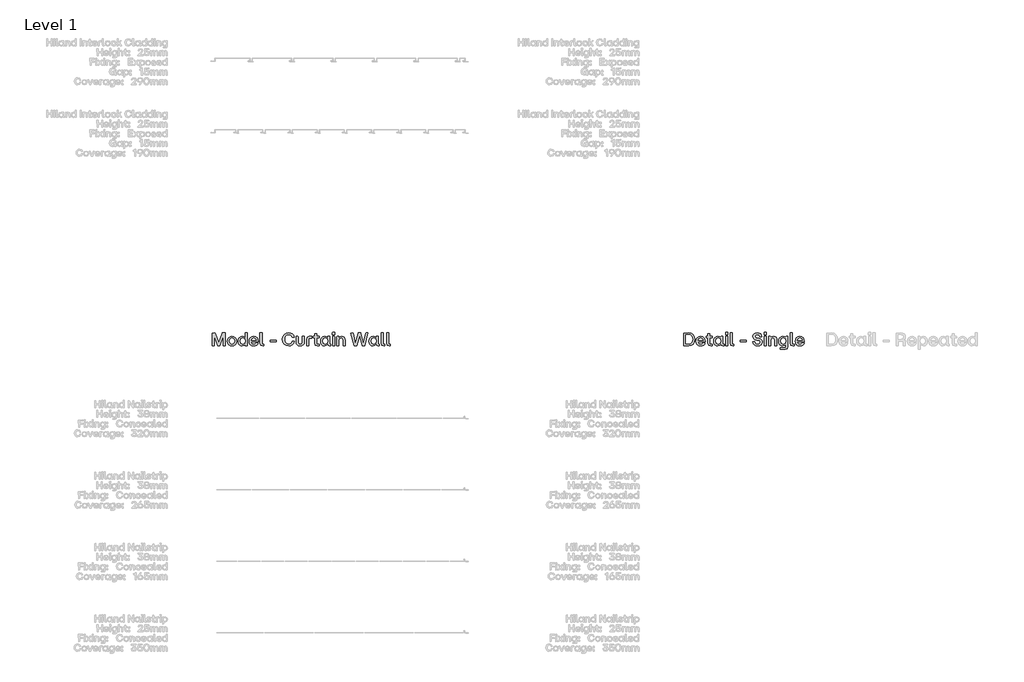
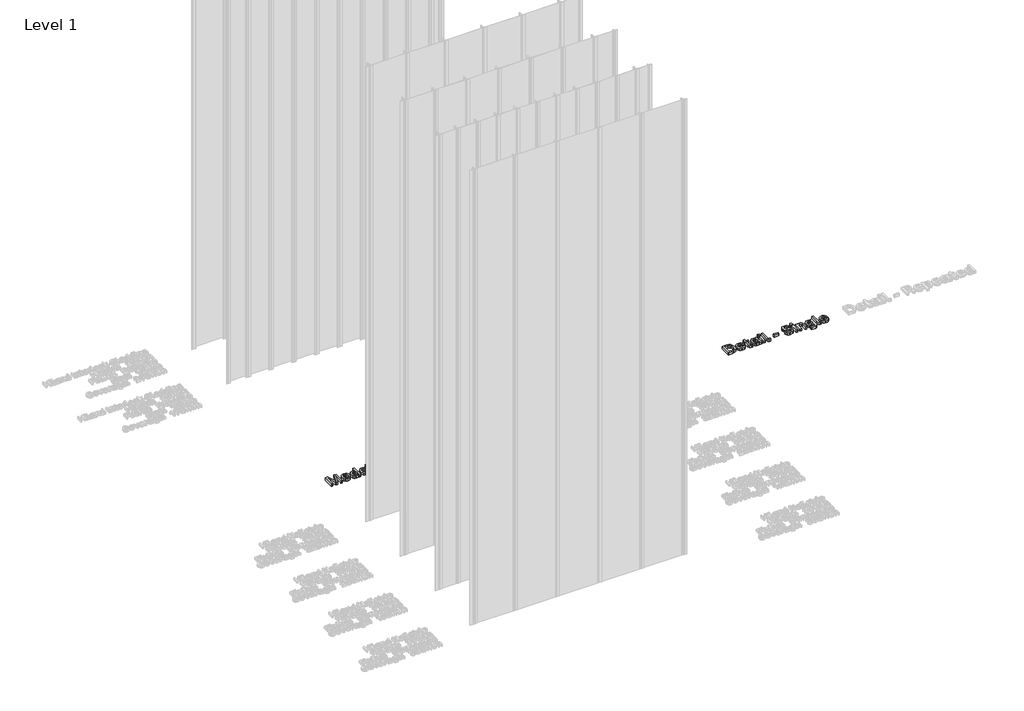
# One storey, part 31 of 64: 2 proxies.
"""IFC4 building model written with IfcOpenShell, lengths in millimetres."""

from ifc_helpers import new_model, si_unit, origin, origin_with_axes, place, context, project, spatial, polyline, outline, extrude, element, save

model = new_model("IFC4")

# Units and contexts
model_context = context("Model", 3, world=origin())
ifc_project = project(units=[si_unit("LENGTHUNIT", "METRE", prefix="MILLI")], contexts=[model_context])

# Site, building, storey
site = spatial("IfcSite", under=ifc_project)
building = spatial("IfcBuilding", under=site)
storey = spatial("IfcBuildingStorey", under=building, Name="Level 1", Elevation=0.0)

# Proxies
placement = place(None, origin())
element("IfcBuildingElementProxy", 1, Name="90mm", ObjectType="90mm", at=placement, inside=storey, context=model_context, shape_type="SweptSolid", body=[
    extrude(outline(polyline([(10.2926176, -1500.0), (8.9872124, -1498.7448027), (8.9872124, -1411.3077612), (28.5682898, -1410.002356), (30.0745265, -1411.0567217), (54.8521205, -1480.4691305), (79.8305461, -1411.0567217), (81.3367829, -1410.002356), (99.8634945, -1410.002356), (101.1688997, -1498.7448027), (99.8634945, -1500.0), (87.9391205, -1500.0), (86.6086114, -1498.7448027), (86.6086114, -1430.211032), (62.2075765, -1498.9958422), (60.7013398, -1500.0), (49.2037328, -1500.0), (47.6974961, -1498.9958422), (23.7985402, -1430.211032), (23.2964613, -1498.7448027), (21.9659522, -1500.0), (10.2926176, -1500.0)])), origin_with_axes(), (0.0, 0.0, 1.0), 20.0),
    extrude(outline(polyline([(148.1383814, -1500.7531184), (134.9117402, -1498.4466934), (124.452809, -1491.5274185), (117.6465018, -1480.8739317), (115.3777327, -1467.3648711), (117.6527778, -1453.7679467), (124.4779129, -1443.0014921), (134.9431201, -1435.9880774), (148.1383814, -1433.6502725), (161.4905423, -1435.9880774), (172.0247853, -1443.0014921), (178.8687484, -1453.7679467), (181.1500695, -1467.3648711), (178.8687484, -1480.8739317), (172.0247853, -1491.5274185), (161.4905423, -1498.4466934), (148.1383814, -1500.7531184)]), holes=[polyline([(129.8878131, -1467.3648711), (134.7454265, -1483.3937402), (140.522472, -1487.7524127), (148.1383814, -1489.2053035), (155.8358786, -1487.7461367), (161.7070638, -1483.3686362), (166.665093, -1467.3648711), (161.7321678, -1451.1728263), (155.8672585, -1446.748256), (148.1383814, -1445.2733992), (140.522472, -1446.748256), (134.7454265, -1451.1728263), (129.8878131, -1467.3648711)])]), origin_with_axes(), (0.0, 0.0, 1.0), 20.0),
    extrude(outline(polyline([(219.9607689, -1500.7531184), (208.011291, -1498.4843493), (198.7730391, -1491.6780421), (192.86106, -1481.0622112), (190.8904003, -1467.3648711), (192.86106, -1453.5325972), (198.7730391, -1442.8132125), (208.011291, -1435.9410075), (219.9607689, -1433.6502725), (231.872591, -1436.5372262), (240.8472515, -1444.444969), (241.4246422, -1408.7471587), (242.6798395, -1407.4166496), (254.353174, -1407.4166496), (255.6585792, -1498.7448027), (254.353174, -1500.0), (243.3074381, -1500.0), (242.0522408, -1498.7448027), (242.0522408, -1490.0839416), (232.4123258, -1497.8661646), (219.9607689, -1500.7531184)]), holes=[polyline([(205.4004807, -1467.3648711), (210.3585099, -1483.3686362), (216.2234191, -1487.7461367), (223.9020884, -1489.2053035), (231.4583759, -1487.7524127), (237.1569715, -1483.3937402), (241.9267211, -1467.3648711), (237.1193156, -1451.1728263), (231.411306, -1446.748256), (223.9020884, -1445.2733992), (216.2234191, -1446.748256), (210.3585099, -1451.1728263), (205.4004807, -1467.3648711)])]), origin_with_axes(), (0.0, 0.0, 1.0), 20.0),
    extrude(outline(polyline([(301.1469281, -1500.7531184), (287.5594177, -1498.4843493), (277.0220367, -1491.6780421), (270.2627994, -1481.0622112), (268.0097203, -1467.3648711), (270.2533854, -1453.5012173), (276.9843807, -1442.7881086), (287.5123478, -1435.9347315), (301.1469281, -1433.6502725), (313.6769348, -1435.9033516), (323.250952, -1442.6625889), (329.3229688, -1453.3129377), (331.3469743, -1467.2393514), (331.3469743, -1470.6785919), (330.0917771, -1472.009101), (282.6453204, -1472.009101), (288.1681884, -1484.6865934), (301.1469281, -1489.2053035), (311.5650654, -1486.9082925), (316.9624137, -1480.4691305), (318.3431307, -1479.4147648), (329.7152179, -1479.4147648), (327.6817983, -1488.7314665), (321.3305002, -1495.1925945), (312.3432877, -1499.3629874), (301.1469281, -1500.7531184)]), holes=[polyline([(282.7708401, -1461.5909637), (317.3389729, -1461.5909637), (312.5817752, -1449.6289337), (301.1469281, -1445.2733992), (288.3815719, -1449.4155502), (282.7708401, -1461.5909637)])]), origin_with_axes(), (0.0, 0.0, 1.0), 20.0),
    extrude(outline(polyline([(362.7771139, -1500.0), (348.9197361, -1495.2302504), (344.1499865, -1481.3477686), (344.1499865, -1408.7471587), (357.1287262, -1407.4166496), (358.3839235, -1408.7471587), (358.3839235, -1488.7032246), (370.3836093, -1488.7032246), (371.6388066, -1489.9584219), (371.6388066, -1498.7448027), (370.3836093, -1500.0), (362.7771139, -1500.0)])), origin_with_axes(), (0.0, 0.0, 1.0), 20.0),
    extrude(outline(polyline([(416.4242451, -1472.887739), (415.1690478, -1471.5572299), (415.1690478, -1461.5909637), (416.4242451, -1460.2604546), (455.034113, -1460.2604546), (456.2893102, -1461.5909637), (456.2893102, -1471.5572299), (455.034113, -1472.887739), (416.4242451, -1472.887739)])), origin_with_axes(), (0.0, 0.0, 1.0), 20.0),
    extrude(outline(polyline([(545.2827964, -1500.7531184), (527.2707156, -1497.6684711), (513.4007858, -1488.4145292), (504.5516451, -1473.8887589), (501.6019315, -1454.988626), (504.5767491, -1436.4054305), (513.5012016, -1421.8263143), (527.3962354, -1412.3935068), (545.2827964, -1409.2492376), (559.231176, -1411.3265891), (570.8009568, -1417.5586436), (579.1197767, -1427.2424905), (583.3152736, -1439.6752194), (570.1357023, -1441.1312482), (568.7047774, -1440.0015707), (560.8409665, -1426.3889563), (545.2827964, -1421.8514182), (533.3584224, -1424.0731174), (524.2958981, -1430.7382148), (518.5721986, -1441.244216), (516.6642987, -1454.988626), (518.5627846, -1468.9464196), (524.2582422, -1479.4398688), (533.3113525, -1486.0108265), (545.2827964, -1488.2011457), (561.1484899, -1483.7263674), (569.5834155, -1470.3020327), (571.0143404, -1469.1221472), (582.9387144, -1469.1221472), (579.7662033, -1482.8791093), (571.3030357, -1492.4688164), (559.5449753, -1498.6820429), (545.2827964, -1500.7531184)])), origin_with_axes(), (0.0, 0.0, 1.0), 20.0),
    extrude(outline(polyline([(625.364382, -1500.7531184), (612.8437893, -1498.9362203), (603.9005087, -1493.4855262), (598.5345404, -1484.401036), (596.7458843, -1471.6827497), (596.7458843, -1435.7339), (598.0010816, -1434.4787027), (609.6744162, -1434.4787027), (610.9798213, -1435.7339), (610.9798213, -1473.7663771), (614.6826533, -1485.2514321), (625.364382, -1489.2053035), (636.2845982, -1485.3455719), (639.9246703, -1473.7663771), (639.9246703, -1435.7339), (641.1798676, -1434.4787027), (652.90341, -1434.4787027), (654.1586073, -1435.7339), (654.1586073, -1471.6827497), (652.3589682, -1484.401036), (646.960051, -1493.4855262), (637.9618556, -1498.9362203), (625.364382, -1500.7531184)])), origin_with_axes(), (0.0, 0.0, 1.0), 20.0),
    extrude(outline(polyline([(670.9280428, -1500.0), (669.6728455, -1498.7448027), (669.6728455, -1453.0556222), (674.4425951, -1439.2107964), (688.2999729, -1434.4787027), (706.5756451, -1434.4787027), (707.8308424, -1435.7339), (707.8308424, -1445.2733992), (706.5756451, -1446.5285965), (683.9067825, -1446.5285965), (683.9067825, -1498.7448027), (682.6515852, -1500.0), (670.9280428, -1500.0)])), origin_with_axes(), (0.0, 0.0, 1.0), 20.0),
    extrude(outline(polyline([(746.0892551, -1500.0), (732.2067733, -1495.2302504), (727.4370237, -1481.3477686), (727.4370237, -1445.7754781), (716.265768, -1445.7754781), (714.9603629, -1435.7339), (716.265768, -1434.4787027), (727.4370237, -1434.4787027), (727.4370237, -1416.45407), (728.692221, -1415.1486648), (740.4408674, -1415.1486648), (741.6960646, -1416.45407), (741.6960646, -1434.4787027), (757.5115502, -1434.4787027), (758.8169553, -1435.7339), (758.8169553, -1444.444969), (741.6960646, -1445.7754781), (741.6960646, -1488.7032246), (757.5115502, -1488.7032246), (758.8169553, -1489.9584219), (758.8169553, -1498.7448027), (757.5115502, -1500.0), (746.0892551, -1500.0)])), origin_with_axes(), (0.0, 0.0, 1.0), 20.0),
    extrude(outline(polyline([(796.7490167, -1500.7531184), (784.7995388, -1498.4843493), (775.5612869, -1491.6780421), (769.6493078, -1481.0622112), (767.678648, -1467.3648711), (769.6493078, -1453.5325972), (775.5612869, -1442.8132125), (784.7995388, -1435.9410075), (796.7490167, -1433.6502725), (808.6608388, -1436.5372262), (817.6354992, -1444.444969), (818.21289, -1435.7339), (819.4680873, -1434.4787027), (831.1414218, -1434.4787027), (832.446827, -1435.7339), (832.446827, -1488.7032246), (839.5512435, -1488.7032246), (840.8064408, -1489.9584219), (840.8064408, -1498.7448027), (839.5512435, -1500.0), (830.0117443, -1500.0), (821.6333025, -1497.6465051), (818.8404886, -1490.5860205), (809.2005736, -1497.8661646), (796.7490167, -1500.7531184)]), holes=[polyline([(782.1887284, -1467.3648711), (787.1467576, -1483.3686362), (793.0116669, -1487.7461367), (800.6903361, -1489.2053035), (808.2466237, -1487.7524127), (813.9452193, -1483.3937402), (818.7149689, -1467.3648711), (813.9075634, -1451.1728263), (808.1995538, -1446.748256), (800.6903361, -1445.2733992), (793.0116669, -1446.748256), (787.1467576, -1451.1728263), (782.1887284, -1467.3648711)])]), origin_with_axes(), (0.0, 0.0, 1.0), 20.0),
    extrude(outline(polyline([(853.1575819, -1500.0), (851.8521767, -1498.7448027), (851.8521767, -1435.7339), (853.1575819, -1434.4787027), (864.8309165, -1434.4787027), (866.0861137, -1435.7339), (866.0861137, -1498.7448027), (864.8309165, -1500.0), (853.1575819, -1500.0)])), origin_with_axes(), (0.0, 0.0, 1.0), 20.0),
    extrude(outline(polyline([(850.8480189, -1421.8514182), (850.8480189, -1407.9940404), (852.1032162, -1406.6635313), (865.960594, -1406.6635313), (867.2911031, -1421.8514182), (865.960594, -1423.1066155), (852.1032162, -1423.1066155), (850.8480189, -1421.8514182)])), origin_with_axes(), (0.0, 0.0, 1.0), 20.0),
    extrude(outline(polyline([(883.6839794, -1500.0), (882.3785742, -1498.7448027), (882.3785742, -1435.7339), (883.6839794, -1434.4787027), (894.7297153, -1434.4787027), (895.9849126, -1435.7339), (895.9849126, -1444.444969), (905.2796484, -1436.3489466), (917.1977464, -1433.6502725), (927.1232188, -1435.5330684), (934.4065009, -1441.1814561), (938.8781412, -1450.4573639), (940.3686879, -1463.2227201), (940.3686879, -1498.7448027), (939.0381788, -1500.0), (927.3648443, -1500.0), (926.0594391, -1498.7448027), (926.0594391, -1463.2227201), (922.5448868, -1449.942733), (911.436391, -1445.7754781), (900.2274794, -1450.0054929), (896.6125112, -1463.2227201), (896.6125112, -1498.7448027), (895.357314, -1500.0), (883.6839794, -1500.0)])), origin_with_axes(), (0.0, 0.0, 1.0), 20.0),
    extrude(outline(polyline([(1003.7561499, -1500.0), (1002.3754329, -1498.8703225), (979.7065703, -1411.4332809), (993.6392599, -1410.002356), (995.0199769, -1411.1822414), (1011.8396203, -1485.6154393), (1030.4918517, -1411.1822414), (1031.9227765, -1410.002356), (1048.3658607, -1410.002356), (1049.8218896, -1411.1822414), (1067.7712105, -1485.6154393), (1085.1431406, -1411.1822414), (1086.5238576, -1410.002356), (1099.2766618, -1410.002356), (1077.8127886, -1498.8703225), (1076.4320716, -1500.0), (1059.9136756, -1500.0), (1058.5329586, -1498.8703225), (1040.4079101, -1426.4956481), (1021.630159, -1498.8703225), (1020.249442, -1500.0), (1003.7561499, -1500.0)])), origin_with_axes(), (0.0, 0.0, 1.0), 20.0),
    extrude(outline(polyline([(1135.7526944, -1500.7531184), (1123.8032164, -1498.4843493), (1114.5649646, -1491.6780421), (1108.6529854, -1481.0622112), (1106.6823257, -1467.3648711), (1108.6529854, -1453.5325972), (1114.5649646, -1442.8132125), (1123.8032164, -1435.9410075), (1135.7526944, -1433.6502725), (1147.6645165, -1436.5372262), (1156.6391769, -1444.444969), (1157.2165677, -1435.7339), (1158.4717649, -1434.4787027), (1170.1450995, -1434.4787027), (1171.4505047, -1435.7339), (1171.4505047, -1488.7032246), (1178.5549212, -1488.7032246), (1179.8101185, -1489.9584219), (1179.8101185, -1498.7448027), (1178.5549212, -1500.0), (1169.015422, -1500.0), (1160.6369802, -1497.6465051), (1157.8441663, -1490.5860205), (1148.2042513, -1497.8661646), (1135.7526944, -1500.7531184)]), holes=[polyline([(1121.1924061, -1467.3648711), (1126.1504353, -1483.3686362), (1132.0153445, -1487.7461367), (1139.6940138, -1489.2053035), (1147.2503014, -1487.7524127), (1152.948897, -1483.3937402), (1157.7186466, -1467.3648711), (1152.911241, -1451.1728263), (1147.2032315, -1446.748256), (1139.6940138, -1445.2733992), (1132.0153445, -1446.748256), (1126.1504353, -1451.1728263), (1121.1924061, -1467.3648711)])]), origin_with_axes(), (0.0, 0.0, 1.0), 20.0),
    extrude(outline(polyline([(1209.4829818, -1500.0), (1195.625604, -1495.2302504), (1190.8558544, -1481.3477686), (1190.8558544, -1408.7471587), (1203.8345941, -1407.4166496), (1205.0897914, -1408.7471587), (1205.0897914, -1488.7032246), (1217.0894773, -1488.7032246), (1218.3446745, -1489.9584219), (1218.3446745, -1498.7448027), (1217.0894773, -1500.0), (1209.4829818, -1500.0)])), origin_with_axes(), (0.0, 0.0, 1.0), 20.0),
    extrude(outline(polyline([(1248.0426418, -1500.0), (1234.185264, -1495.2302504), (1229.4155144, -1481.3477686), (1229.4155144, -1408.7471587), (1242.3942541, -1407.4166496), (1243.6494514, -1408.7471587), (1243.6494514, -1488.7032246), (1255.6491373, -1488.7032246), (1256.9043345, -1489.9584219), (1256.9043345, -1498.7448027), (1255.6491373, -1500.0), (1248.0426418, -1500.0)])), origin_with_axes(), (0.0, 0.0, 1.0), 20.0),
])
element("IfcBuildingElementProxy", 2, Name="90mm", ObjectType="90mm", at=placement, inside=storey, context=model_context, shape_type="SweptSolid", body=[
    extrude(outline(polyline([(3310.2926176, -1500.0), (3308.9872124, -1498.7448027), (3308.9872124, -1411.3077612), (3342.5511873, -1410.002356), (3360.5475781, -1413.0054155), (3374.1193986, -1422.0145938), (3382.63905, -1436.3583606), (3385.4789338, -1455.3651852), (3382.648464, -1474.2025582), (3374.1570545, -1488.2890095), (3360.594648, -1497.0722524), (3342.5511873, -1500.0), (3310.2926176, -1500.0)]), holes=[polyline([(3323.7985402, -1487.3727155), (3341.6725492, -1487.3727155), (3353.8950326, -1485.311054), (3362.9481429, -1479.1260695), (3368.5494607, -1469.0625254), (3370.4165666, -1455.3651852), (3368.5431847, -1441.5109454), (3362.923039, -1431.1775339), (3353.8636527, -1424.7477859), (3341.6725492, -1422.6045366), (3323.7985402, -1422.6045366), (3323.7985402, -1487.3727155)])]), origin_with_axes(), (0.0, 0.0, 1.0), 20.0),
    extrude(outline(polyline([(3427.628458, -1500.7531184), (3414.0409476, -1498.4843493), (3403.5035666, -1491.6780421), (3396.7443293, -1481.0622112), (3394.4912502, -1467.3648711), (3396.7349153, -1453.5012173), (3403.4659107, -1442.7881086), (3413.9938777, -1435.9347315), (3427.628458, -1433.6502725), (3440.1584647, -1435.9033516), (3449.7324819, -1442.6625889), (3455.8044987, -1453.3129377), (3457.8285043, -1467.2393514), (3457.8285043, -1470.6785919), (3456.573307, -1472.009101), (3409.1268503, -1472.009101), (3414.6497183, -1484.6865934), (3427.628458, -1489.2053035), (3438.0465953, -1486.9082925), (3443.4439436, -1480.4691305), (3444.8246606, -1479.4147648), (3456.1967478, -1479.4147648), (3454.1633282, -1488.7314665), (3447.8120301, -1495.1925945), (3438.8248176, -1499.3629874), (3427.628458, -1500.7531184)]), holes=[polyline([(3409.2523701, -1461.5909637), (3443.8205028, -1461.5909637), (3439.0633051, -1449.6289337), (3427.628458, -1445.2733992), (3414.8631018, -1449.4155502), (3409.2523701, -1461.5909637)])]), origin_with_axes(), (0.0, 0.0, 1.0), 20.0),
    extrude(outline(polyline([(3496.6140998, -1500.0), (3482.731618, -1495.2302504), (3477.9618684, -1481.3477686), (3477.9618684, -1445.7754781), (3466.7906127, -1445.7754781), (3465.4852076, -1435.7339), (3466.7906127, -1434.4787027), (3477.9618684, -1434.4787027), (3477.9618684, -1416.45407), (3479.2170657, -1415.1486648), (3490.9657121, -1415.1486648), (3492.2209094, -1416.45407), (3492.2209094, -1434.4787027), (3508.0363949, -1434.4787027), (3509.3418001, -1435.7339), (3509.3418001, -1444.444969), (3492.2209094, -1445.7754781), (3492.2209094, -1488.7032246), (3508.0363949, -1488.7032246), (3509.3418001, -1489.9584219), (3509.3418001, -1498.7448027), (3508.0363949, -1500.0), (3496.6140998, -1500.0)])), origin_with_axes(), (0.0, 0.0, 1.0), 20.0),
    extrude(outline(polyline([(3547.2738615, -1500.7531184), (3535.3243835, -1498.4843493), (3526.0861316, -1491.6780421), (3520.1741525, -1481.0622112), (3518.2034928, -1467.3648711), (3520.1741525, -1453.5325972), (3526.0861316, -1442.8132125), (3535.3243835, -1435.9410075), (3547.2738615, -1433.6502725), (3559.1856835, -1436.5372262), (3568.160344, -1444.444969), (3568.7377347, -1435.7339), (3569.992932, -1434.4787027), (3581.6662665, -1434.4787027), (3582.9716717, -1435.7339), (3582.9716717, -1488.7032246), (3590.0760882, -1488.7032246), (3591.3312855, -1489.9584219), (3591.3312855, -1498.7448027), (3590.0760882, -1500.0), (3580.536589, -1500.0), (3572.1581473, -1497.6465051), (3569.3653333, -1490.5860205), (3559.7254183, -1497.8661646), (3547.2738615, -1500.7531184)]), holes=[polyline([(3532.7135732, -1467.3648711), (3537.6716024, -1483.3686362), (3543.5365116, -1487.7461367), (3551.2151809, -1489.2053035), (3558.7714684, -1487.7524127), (3564.470064, -1483.3937402), (3569.2398136, -1467.3648711), (3564.4324081, -1451.1728263), (3558.7243985, -1446.748256), (3551.2151809, -1445.2733992), (3543.5365116, -1446.748256), (3537.6716024, -1451.1728263), (3532.7135732, -1467.3648711)])]), origin_with_axes(), (0.0, 0.0, 1.0), 20.0),
    extrude(outline(polyline([(3603.6824266, -1500.0), (3602.3770214, -1498.7448027), (3602.3770214, -1435.7339), (3603.6824266, -1434.4787027), (3615.3557612, -1434.4787027), (3616.6109584, -1435.7339), (3616.6109584, -1498.7448027), (3615.3557612, -1500.0), (3603.6824266, -1500.0)])), origin_with_axes(), (0.0, 0.0, 1.0), 20.0),
    extrude(outline(polyline([(3601.3728636, -1421.8514182), (3601.3728636, -1407.9940404), (3602.6280609, -1406.6635313), (3616.4854387, -1406.6635313), (3617.8159478, -1421.8514182), (3616.4854387, -1423.1066155), (3602.6280609, -1423.1066155), (3601.3728636, -1421.8514182)])), origin_with_axes(), (0.0, 0.0, 1.0), 20.0),
    extrude(outline(polyline([(3651.5305464, -1500.0), (3637.6731686, -1495.2302504), (3632.903419, -1481.3477686), (3632.903419, -1408.7471587), (3645.8821587, -1407.4166496), (3647.137356, -1408.7471587), (3647.137356, -1488.7032246), (3659.1370418, -1488.7032246), (3660.3922391, -1489.9584219), (3660.3922391, -1498.7448027), (3659.1370418, -1500.0), (3651.5305464, -1500.0)])), origin_with_axes(), (0.0, 0.0, 1.0), 20.0),
    extrude(outline(polyline([(3705.1776775, -1472.887739), (3703.9224803, -1471.5572299), (3703.9224803, -1461.5909637), (3705.1776775, -1460.2604546), (3743.7875455, -1460.2604546), (3745.0427427, -1461.5909637), (3745.0427427, -1471.5572299), (3743.7875455, -1472.887739), (3705.1776775, -1472.887739)])), origin_with_axes(), (0.0, 0.0, 1.0), 20.0),
    extrude(outline(polyline([(3826.3293177, -1500.7531184), (3812.5598037, -1498.9017024), (3801.8780749, -1493.3474545), (3794.6167588, -1484.372794), (3791.1084824, -1472.2601404), (3804.3633655, -1470.8041116), (3805.6687707, -1472.009101), (3811.8568932, -1484.5610736), (3826.3293177, -1488.4521852), (3838.8436344, -1484.8748729), (3843.3246887, -1474.9462626), (3840.2243514, -1466.6996165), (3829.84387, -1462.5951215), (3817.9697039, -1460.511494), (3806.9647619, -1457.2573951), (3799.104089, -1451.9384967), (3794.3876853, -1444.5547988), (3792.8155507, -1435.1063013), (3794.8301423, -1424.2645349), (3800.8739171, -1416.0900628), (3810.5263841, -1410.9594439), (3823.3670521, -1409.2492376), (3836.1010284, -1410.9814099), (3846.0359148, -1416.1779266), (3852.826532, -1424.5312644), (3856.1277008, -1435.7339), (3842.9481295, -1437.1648249), (3841.5172046, -1435.7339), (3835.7056413, -1425.0270673), (3823.3670521, -1421.6003787), (3811.6058538, -1424.7383719), (3807.5515666, -1433.901312), (3811.1665347, -1442.599829), (3822.4884141, -1447.1561951), (3834.2872684, -1449.2147186), (3845.1070688, -1452.3840917), (3852.4625248, -1457.4739166), (3856.6799876, -1464.8042687), (3858.0858085, -1474.6952231), (3855.9739391, -1485.6091633), (3849.6383309, -1493.8495334), (3839.5873388, -1499.0272221), (3826.3293177, -1500.7531184)])), origin_with_axes(), (0.0, 0.0, 1.0), 20.0),
    extrude(outline(polyline([(3871.2904838, -1421.8514182), (3871.2904838, -1407.9940404), (3872.545681, -1406.6635313), (3886.4030589, -1406.6635313), (3887.733568, -1421.8514182), (3886.4030589, -1423.1066155), (3872.545681, -1423.1066155), (3871.2904838, -1421.8514182)])), origin_with_axes(), (0.0, 0.0, 1.0), 20.0),
    extrude(outline(polyline([(3873.6000467, -1500.0), (3872.2946416, -1498.7448027), (3872.2946416, -1435.7339), (3873.6000467, -1434.4787027), (3885.2733813, -1434.4787027), (3886.5285786, -1435.7339), (3886.5285786, -1498.7448027), (3885.2733813, -1500.0), (3873.6000467, -1500.0)])), origin_with_axes(), (0.0, 0.0, 1.0), 20.0),
    extrude(outline(polyline([(3904.1264443, -1500.0), (3902.8210391, -1498.7448027), (3902.8210391, -1435.7339), (3904.1264443, -1434.4787027), (3915.1721802, -1434.4787027), (3916.4273775, -1435.7339), (3916.4273775, -1444.444969), (3925.7221132, -1436.3489466), (3937.6402113, -1433.6502725), (3947.5656836, -1435.5330684), (3954.8489658, -1441.1814561), (3959.320606, -1450.4573639), (3960.8111528, -1463.2227201), (3960.8111528, -1498.7448027), (3959.4806437, -1500.0), (3947.8073091, -1500.0), (3946.501904, -1498.7448027), (3946.501904, -1463.2227201), (3942.9873516, -1449.942733), (3931.8788558, -1445.7754781), (3920.6699442, -1450.0054929), (3917.0549761, -1463.2227201), (3917.0549761, -1498.7448027), (3915.7997788, -1500.0), (3904.1264443, -1500.0)])), origin_with_axes(), (0.0, 0.0, 1.0), 20.0),
    extrude(outline(polyline([(3986.5175928, -1524.4010349), (3985.1870837, -1523.1458376), (3985.1870837, -1514.3594567), (3986.5175928, -1513.1042595), (4023.4203924, -1513.1042595), (4023.4203924, -1489.9584219), (4013.8683412, -1497.8661646), (4001.9565192, -1500.7531184), (3990.0070412, -1498.4686593), (3980.7687893, -1491.6152823), (3974.8568102, -1480.9210016), (3972.8861505, -1467.1138316), (3974.8568102, -1453.3913875), (3980.7687893, -1442.7504527), (3990.0070412, -1435.9253176), (4001.9565192, -1433.6502725), (4014.4080761, -1436.5372262), (4023.5459122, -1444.3194493), (4024.0479911, -1435.7339), (4025.3031883, -1434.4787027), (4036.3489243, -1434.4787027), (4037.6543294, -1435.7339), (4037.6543294, -1506.4015061), (4033.0100996, -1519.7944609), (4019.6548006, -1524.4010349), (3986.5175928, -1524.4010349)]), holes=[polyline([(3987.3962309, -1467.1138316), (3992.3542601, -1483.3058764), (3998.2191693, -1487.7304467), (4005.8978386, -1489.2053035), (4013.4070562, -1487.7304467), (4019.1150658, -1483.3058764), (4023.9224713, -1467.1138316), (4019.1527217, -1451.0724106), (4013.4541261, -1446.723152), (4005.8978386, -1445.2733992), (3998.2191693, -1446.732566), (3992.3542601, -1451.1100665), (3987.3962309, -1467.1138316)])]), origin_with_axes(), (0.0, 0.0, 1.0), 20.0),
    extrude(outline(polyline([(4072.4735016, -1500.0), (4058.6161238, -1495.2302504), (4053.8463742, -1481.3477686), (4053.8463742, -1408.7471587), (4066.8251139, -1407.4166496), (4068.0803112, -1408.7471587), (4068.0803112, -1488.7032246), (4080.079997, -1488.7032246), (4081.3351943, -1489.9584219), (4081.3351943, -1498.7448027), (4080.079997, -1500.0), (4072.4735016, -1500.0)])), origin_with_axes(), (0.0, 0.0, 1.0), 20.0),
    extrude(outline(polyline([(4121.7023384, -1500.7531184), (4108.114828, -1498.4843493), (4097.5774469, -1491.6780421), (4090.8182097, -1481.0622112), (4088.5651306, -1467.3648711), (4090.8087957, -1453.5012173), (4097.539791, -1442.7881086), (4108.0677581, -1435.9347315), (4121.7023384, -1433.6502725), (4134.2323451, -1435.9033516), (4143.8063622, -1442.6625889), (4149.878379, -1453.3129377), (4151.9023846, -1467.2393514), (4151.9023846, -1470.6785919), (4150.6471873, -1472.009101), (4103.2007307, -1472.009101), (4108.7235987, -1484.6865934), (4121.7023384, -1489.2053035), (4132.1204757, -1486.9082925), (4137.5178239, -1480.4691305), (4138.8985409, -1479.4147648), (4150.2706282, -1479.4147648), (4148.2372086, -1488.7314665), (4141.8859104, -1495.1925945), (4132.898698, -1499.3629874), (4121.7023384, -1500.7531184)]), holes=[polyline([(4103.3262504, -1461.5909637), (4137.8943831, -1461.5909637), (4133.1371855, -1449.6289337), (4121.7023384, -1445.2733992), (4108.9369822, -1449.4155502), (4103.3262504, -1461.5909637)])]), origin_with_axes(), (0.0, 0.0, 1.0), 20.0),
])

save(model, "model.ifc")
